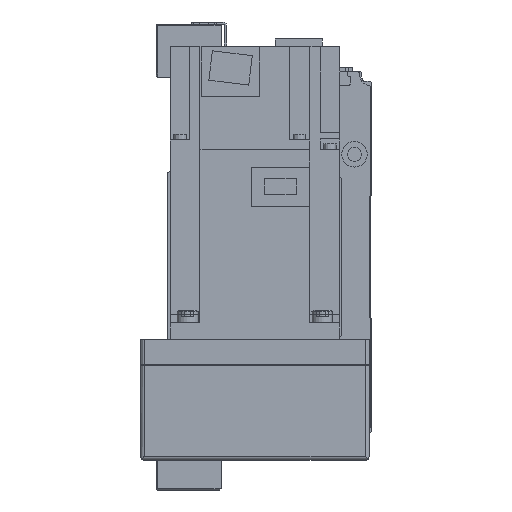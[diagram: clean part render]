
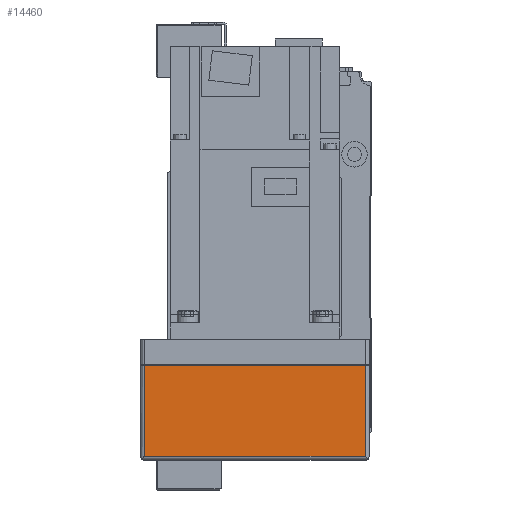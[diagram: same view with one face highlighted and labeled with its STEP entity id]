
A CAD part, left-side view. The second image highlights one B-rep face of the part: STEP entity #14460.
In plain terms, the highlighted planar face has unit normal (-1, 0, 0).
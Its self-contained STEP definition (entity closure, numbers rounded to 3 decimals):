
#2598=ORIENTED_EDGE('',*,*,#5976,.T.);
#2599=ORIENTED_EDGE('',*,*,#5904,.T.);
#2600=ORIENTED_EDGE('',*,*,#5977,.F.);
#2601=ORIENTED_EDGE('',*,*,#5916,.F.);
#5904=EDGE_CURVE('',#7742,#7745,#9258,.T.);
#5916=EDGE_CURVE('',#7752,#7754,#9263,.T.);
#5976=EDGE_CURVE('',#7752,#7742,#9305,.T.);
#5977=EDGE_CURVE('',#7754,#7745,#9306,.T.);
#7742=VERTEX_POINT('',#22691);
#7745=VERTEX_POINT('',#22697);
#7752=VERTEX_POINT('',#22720);
#7754=VERTEX_POINT('',#22723);
#9258=LINE('',#22698,#10571);
#9263=LINE('',#22722,#10576);
#9305=LINE('',#22846,#10618);
#9306=LINE('',#22847,#10619);
#10571=VECTOR('',#18091,1000.);
#10576=VECTOR('',#18118,1000.);
#10618=VECTOR('',#18238,1000.);
#10619=VECTOR('',#18239,1000.);
#11727=EDGE_LOOP('',(#2598,#2599,#2600,#2601));
#12874=FACE_BOUND('',#11727,.T.);
#13853=PLANE('',#15553);
#14460=ADVANCED_FACE('',(#12874),#13853,.T.);
#15553=AXIS2_PLACEMENT_3D('',#22845,#18236,#18237);
#18091=DIRECTION('',(0.,0.,1.));
#18118=DIRECTION('',(0.,0.,1.));
#18236=DIRECTION('',(-1.,0.,0.));
#18237=DIRECTION('',(0.,0.,1.));
#18238=DIRECTION('',(0.,-1.,0.));
#18239=DIRECTION('',(0.,-1.,0.));
#22691=CARTESIAN_POINT('',(-230.,-52.,-55.));
#22697=CARTESIAN_POINT('',(-230.,-52.,-12.));
#22698=CARTESIAN_POINT('',(-230.,-52.,-57.));
#22720=CARTESIAN_POINT('',(-230.,52.,-55.));
#22722=CARTESIAN_POINT('',(-230.,52.,-57.));
#22723=CARTESIAN_POINT('',(-230.,52.,-12.));
#22845=CARTESIAN_POINT('',(-230.,52.,-57.));
#22846=CARTESIAN_POINT('',(-230.,54.,-55.));
#22847=CARTESIAN_POINT('',(-230.,52.,-12.));
